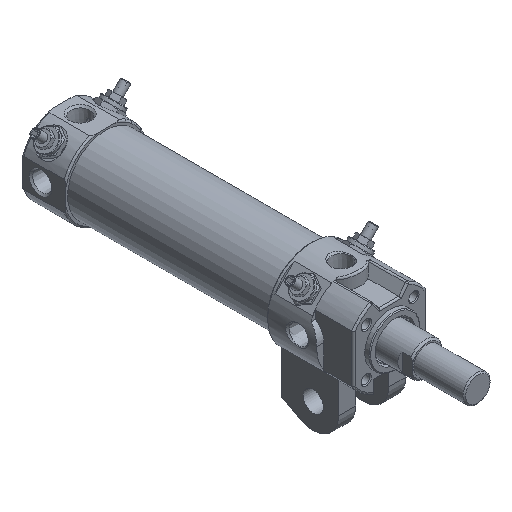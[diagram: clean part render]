
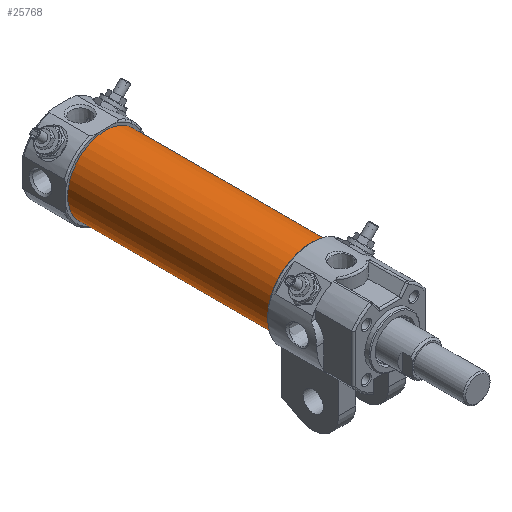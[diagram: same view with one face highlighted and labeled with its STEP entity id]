
A CAD part, isometric view. The second image highlights one B-rep face of the part: STEP entity #25768.
In plain terms, the highlighted cylindrical face has radius 22.5 mm (diameter 45 mm), a full revolution.
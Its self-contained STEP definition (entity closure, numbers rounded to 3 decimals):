
#20694=CARTESIAN_POINT('',(22.5,171.5,0.));
#20695=VERTEX_POINT('',#20694);
#20696=CARTESIAN_POINT('',(0.0,171.5,0.0));
#20697=DIRECTION('',(0.0,-1.0,0.0));
#20698=DIRECTION('',(-1.0,0.0,0.0));
#20699=AXIS2_PLACEMENT_3D('',#20696,#20697,#20698);
#20700=CIRCLE('',#20699,22.5);
#20701=EDGE_CURVE('',#20695,#20695,#20700,.T.);
#25745=CARTESIAN_POINT('',(22.5,50.5,0.));
#25746=VERTEX_POINT('',#25745);
#25747=CARTESIAN_POINT('',(0.0,50.5,0.0));
#25748=DIRECTION('',(0.0,-1.0,0.0));
#25749=DIRECTION('',(-1.0,0.0,0.0));
#25750=AXIS2_PLACEMENT_3D('',#25747,#25748,#25749);
#25751=CIRCLE('',#25750,22.5);
#25752=EDGE_CURVE('',#25746,#25746,#25751,.T.);
#25757=CARTESIAN_POINT('',(0.0,50.5,0.0));
#25758=DIRECTION('',(0.0,1.0,0.0));
#25759=DIRECTION('',(-1.0,0.0,0.0));
#25760=AXIS2_PLACEMENT_3D('',#25757,#25758,#25759);
#25761=CYLINDRICAL_SURFACE('',#25760,22.5);
#25762=ORIENTED_EDGE('',*,*,#20701,.T.);
#25763=EDGE_LOOP('',(#25762));
#25764=FACE_OUTER_BOUND('',#25763,.T.);
#25765=ORIENTED_EDGE('',*,*,#25752,.F.);
#25766=EDGE_LOOP('',(#25765));
#25767=FACE_BOUND('',#25766,.T.);
#25768=ADVANCED_FACE('',(#25764,#25767),#25761,.T.);
